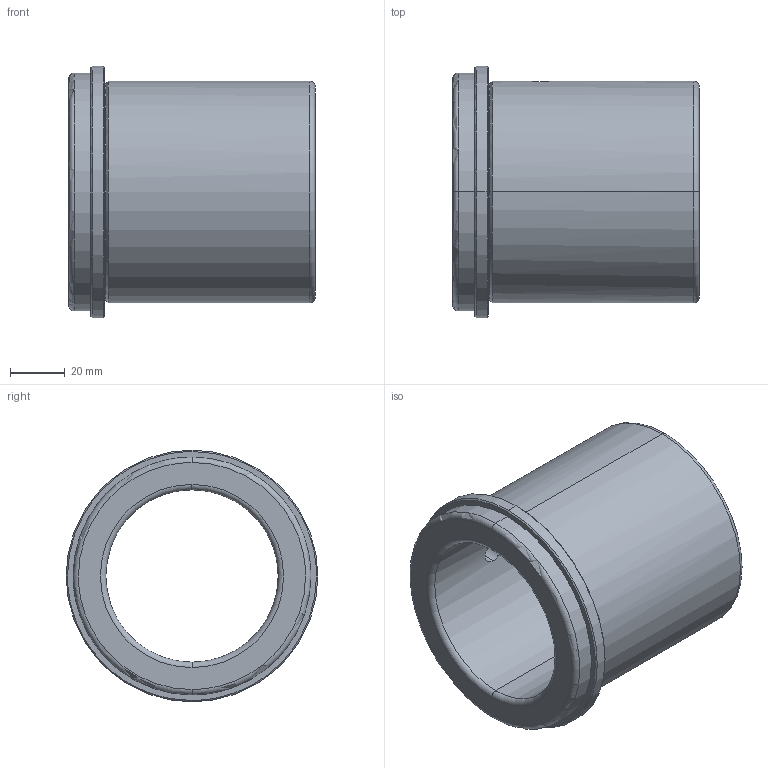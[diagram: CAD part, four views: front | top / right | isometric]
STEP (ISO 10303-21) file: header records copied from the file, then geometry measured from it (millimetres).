
FILE_DESCRIPTION(('CATIA V5 STEP Exchange'),'2;1');
FILE_NAME('C:\Users\Utente\Desktop\IO LAVORO\3D X SITO CF\X SITO\CF 632\CF 632 63 x 90.stp','2020-12-26T19:31:17+00:00',('none'),('none'),'CATIA Version 5 Release 20 GA (IN-10)','CATIA V5 STEP AP203','none');
FILE_SCHEMA(('CONFIG_CONTROL_DESIGN'));
Length unit declared in the file: millimetre
Products named in the file (1): CF 632 63 x 90
Bounding box: 90 x 92 x 92 mm (x, y, z)
Volume: 194989.1 mm3; surface area: 47968.4 mm2
Topology: 1 solids, 1 shells, 33 faces, 113 edges, 85 vertices
Faces by surface type: cylinder 12, torus 8, cone 8, plane 5
Entity records: 1548 total; most frequent: CARTESIAN_POINT 537, ORIENTED_EDGE 226, DIRECTION 156, EDGE_CURVE 113, AXIS2_PLACEMENT_3D 104, VERTEX_POINT 85, CIRCLE 70, EDGE_LOOP 40
